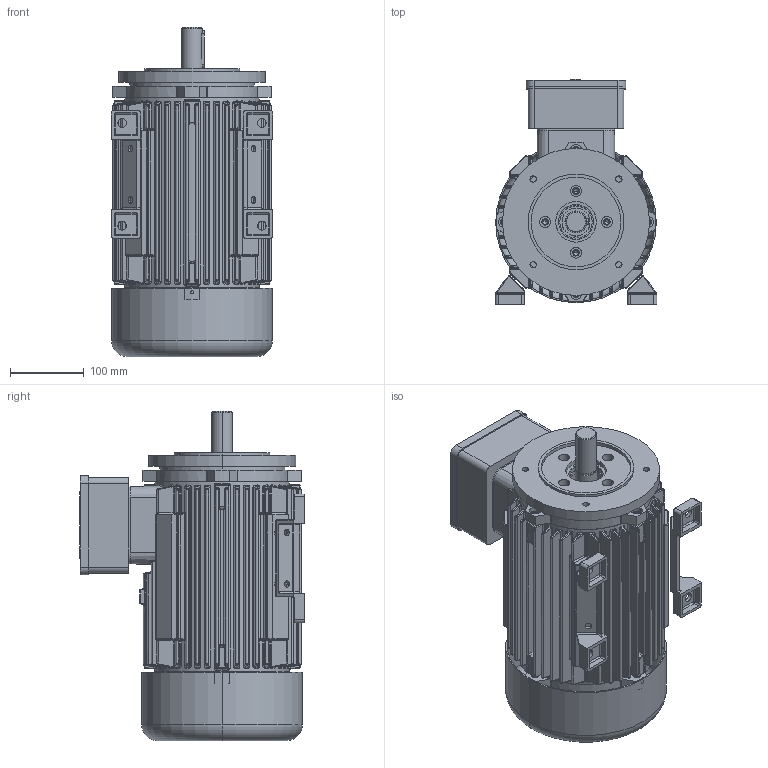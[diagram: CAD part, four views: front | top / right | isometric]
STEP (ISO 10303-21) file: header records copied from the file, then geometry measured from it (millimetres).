
FILE_DESCRIPTION (( 'STEP AP214' ), '1' );
FILE_NAME ('20.18366-G 7AZ 112 B34 large STANDK.STEP', '2018-07-17T06:24:55', ( '' ), ( '' ), 'SwSTEP 2.0', 'SolidWorks 2018', '' );
FILE_SCHEMA (( 'AUTOMOTIVE_DESIGN' ));
Length unit declared in the file: millimetre
Products named in the file (1): 20.18366-G 7AZ 112 B34 large STANDK
Bounding box: 220 x 305.8 x 448 mm (x, y, z)
Volume: 4392408.5 mm3; surface area: 1259332 mm2
Topology: 12 solids, 12 shells, 3176 faces, 7693 edges, 4428 vertices
Faces by surface type: cylinder 1182, bspline 985, plane 666, sphere 138, torus 111, cone 94
Entity records: 153917 total; most frequent: CARTESIAN_POINT 61294, ORIENTED_EDGE 14878, DIRECTION 12279, EDGE_CURVE 7439, AXIS2_PLACEMENT_3D 4818, VERTEX_POINT 4418, EDGE_LOOP 3403, ADVANCED_FACE 3176
